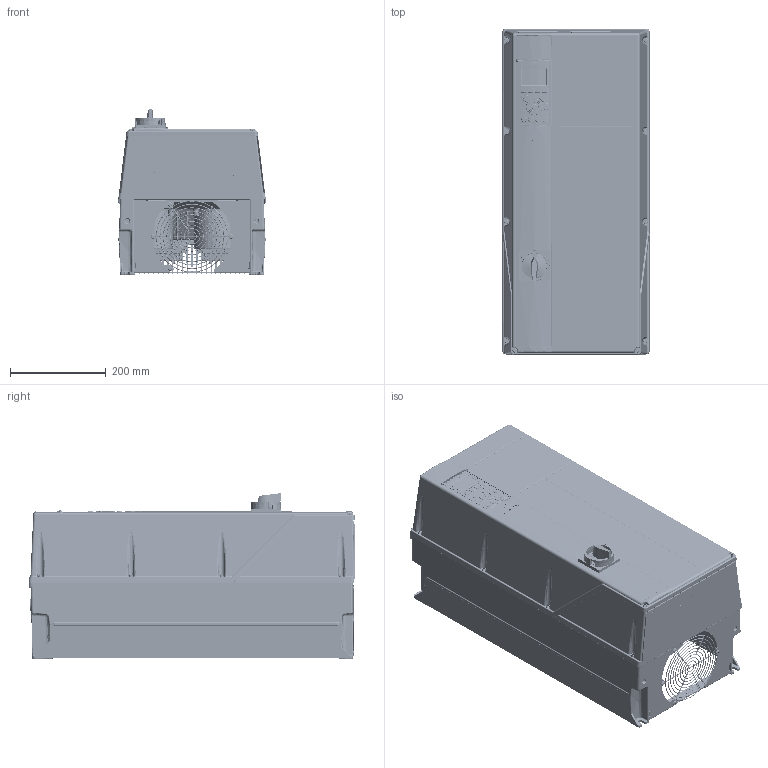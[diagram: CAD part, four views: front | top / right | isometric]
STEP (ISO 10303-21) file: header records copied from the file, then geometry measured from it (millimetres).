
FILE_DESCRIPTION((''),'2;1');
FILE_NAME('DANFOSS-FC300-C1-SWITCH','2011-10-13T',('cstephenkumar'),('Be-Atch INC. 1993'),'PRO/ENGINEER BY PARAMETRIC TECHNOLOGY CORPORATION, 2009360','PRO/ENGINEER BY PARAMETRIC TECHNOLOGY CORPORATION, 2009360','');
FILE_SCHEMA(('AUTOMOTIVE_DESIGN { 1 0 10303 214 1 1 1 1 }'));
Length unit declared in the file: millimetre
Products named in the file (1): DANFOSS-FC300-C1-SWITCH
Bounding box: 307.5 x 681.52 x 345.13 mm (x, y, z)
Volume: 41981405 mm3; surface area: 3399613 mm2
Topology: 1 solids, 20 shells, 6320 faces, 15948 edges, 9727 vertices
Faces by surface type: cylinder 1947, plane 1851, bspline 1541, cone 487, torus 472, sphere 19, extrusion 3
Entity records: 312917 total; most frequent: CARTESIAN_POINT 172419, ORIENTED_EDGE 31716, DIRECTION 25015, EDGE_CURVE 15858, VERTEX_POINT 9725, AXIS2_PLACEMENT_3D 9155, VECTOR 6705, LINE 6702
